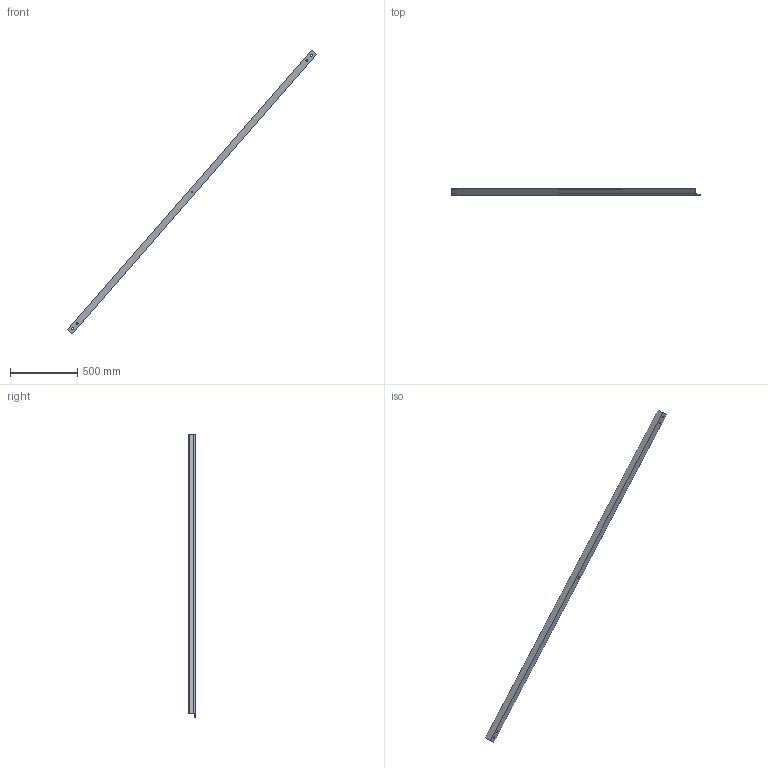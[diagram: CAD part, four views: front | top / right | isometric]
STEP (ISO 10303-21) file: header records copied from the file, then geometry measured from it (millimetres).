
FILE_DESCRIPTION (( 'STEP AP214' ), '1' );
FILE_NAME ('CCJ029-REP.050 - CONTREVENTEMENT A4-A5.STEP', '2024-01-10T14:41:23', ( '' ), ( '' ), 'SwSTEP 2.0', 'SolidWorks 2021', '' );
FILE_SCHEMA (( 'AUTOMOTIVE_DESIGN' ));
Length unit declared in the file: millimetre
Products named in the file (1): CCJ029-REP.050 - CONTREVENTEMENT A4-A5
Bounding box: 1846.63 x 50 x 2104.16 mm (x, y, z)
Volume: 1316860.3 mm3; surface area: 533996.4 mm2
Topology: 1 solids, 1 shells, 21 faces, 57 edges, 38 vertices
Faces by surface type: cylinder 13, plane 8
Entity records: 731 total; most frequent: DIRECTION 127, CARTESIAN_POINT 117, ORIENTED_EDGE 114, EDGE_CURVE 57, AXIS2_PLACEMENT_3D 48, VERTEX_POINT 38, EDGE_LOOP 31, VECTOR 31
